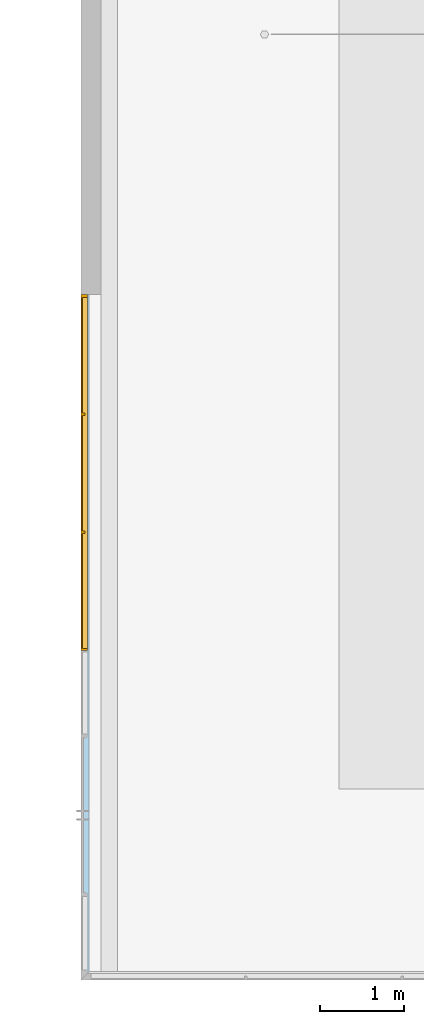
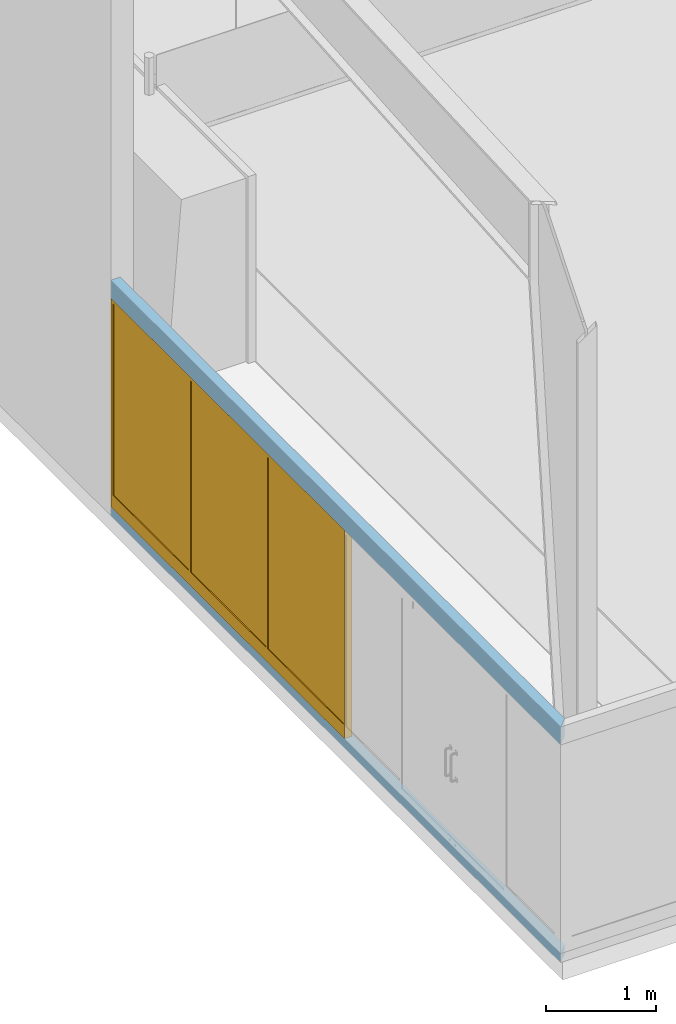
# One storey, part 31 of 45: 1 window, 2 openings, plus 1 element that does not belong to this part.
"""IFC2X3 building model written with IfcOpenShell, lengths in metres."""

from ifc_helpers import new_model, entity, si_unit, converted_unit, money_unit, direction, frame, origin_with_axes, place, context, subcontext, project, spatial, polyline, outline, extrude, faceted_brep, material, layer, layer_set, layer_usage, type_object, element, fill, save


model = new_model("IFC2X3")

# Units and contexts
model_context = context("Model", 3, precision=1e-05, world=origin_with_axes(), true_north=direction((0.0, 1.0)))
body_context = subcontext(model_context, "Body", "Model", "MODEL_VIEW")
ifc_project = project(units=[si_unit("LENGTHUNIT", "METRE"), si_unit("AREAUNIT", "SQUARE_METRE"), si_unit("VOLUMEUNIT", "CUBIC_METRE"), converted_unit("PLANEANGLEUNIT", "DEGREE", entity("IfcPlaneAngleMeasure", 0.0174532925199), si_unit("PLANEANGLEUNIT", "RADIAN"), dimensions=[0, 0, 0, 0, 0, 0, 0]), si_unit("SOLIDANGLEUNIT", "STERADIAN"), money_unit("EUR"), converted_unit("TIMEUNIT", "Year", entity("IfcTimeMeasure", 31556926.0), si_unit("TIMEUNIT", "SECOND"), dimensions=[0, 0, 0, 0, 0, 0, 0]), si_unit("MASSUNIT", "GRAM"), si_unit("THERMODYNAMICTEMPERATUREUNIT", "DEGREE_CELSIUS"), si_unit("LUMINOUSINTENSITYUNIT", "LUMEN")], contexts=[model_context])

# Site, building, storey
site_placement = place(None, origin_with_axes())
site = spatial("IfcSite", under=ifc_project, at=site_placement, Name="Site", CompositionType="ELEMENT")
building_placement = place(site_placement, origin_with_axes())
building = spatial("IfcBuilding", under=site, at=building_placement, Name="Bâtiment", CompositionType="ELEMENT")
storey_placement = place(building_placement, origin_with_axes())
storey = spatial("IfcBuildingStorey", under=building, at=storey_placement, Name="NIVEAU BAS GYMNASE", CompositionType="ELEMENT", Elevation=0.0)

# Wall, openings, window
ifc_material_1 = material(Name="Acier 2556372607")
ifc_layer = layer(ifc_material_1, 0.1, ventilated="UNKNOWN")
ifc_layer_set = layer_set([ifc_layer], Name="Acier 2556372607 0.1")
ifc_layer_usage = layer_usage(ifc_layer_set, "AXIS2", "POSITIVE", -0.1)
wall_type = type_object("IfcWallType", Name="Acier 2556372607 100", PredefinedType="NOTDEFINED")
wall_placement = place(storey_placement, frame((0.538618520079, 1.92911584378, 0.0), z_axis=(0.0, 0.0, 1.0), x_axis=(0.0, 1.0, 0.0)))
wall = element("IfcWallStandardCase", 1, at=wall_placement, inside=storey, type_object=wall_type, material=ifc_layer_usage, Name="Mur-002", context=body_context, shape_type="SweptSolid", body=[
    extrude(outline(polyline([(0.1, -0.1), (8.19666666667, -0.1), (8.19666666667, 0.0), (0.0, 0.0), (0.1, -0.1)])), origin_with_axes(), (0.0, 0.0, 1.0), 2.62),
])
opening_1_placement = place(wall_placement, frame((6.06818327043, 0.0, 0.1), z_axis=(0.0, 0.0, 1.0), x_axis=(1.0, 0.0, 0.0)))
opening_1 = element("IfcOpeningElement", 2, at=opening_1_placement, cuts=wall, Name="Fen-023", context=body_context, shape_type="SweptSolid", body=[
    extrude(outline(polyline([(-2.128483, 0.0), (-2.128483, -2.32), (2.128483, -2.32), (2.128483, 0.0), (-2.128483, 0.0)])), frame((0.0, 0.0, 0.0), z_axis=(0.0, 1.0, 0.0), x_axis=(1.0, 0.0, 0.0)), (0.0, 0.0, 1.0), 0.1),
    extrude(outline(polyline([(-2.128483, 2.32), (-2.128483, 0.0), (2.128483, 0.0), (2.128483, 2.32), (-2.128483, 2.32)])), frame((0.0, 0.0, 0.0), z_axis=(0.0, -1.0, 0.0), x_axis=(1.0, 0.0, 0.0)), (0.0, 0.0, 1.0), 0.1),
])
opening_2_placement = place(wall_placement, frame((1.9698499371, 0.0, 0.1), z_axis=(0.0, 0.0, 1.0), x_axis=(1.0, 0.0, 0.0)))
element("IfcOpeningElement", 3, at=opening_2_placement, cuts=wall, Name="Por-022", context=body_context, shape_type="SweptSolid", body=[
    extrude(outline(polyline([(-1.96985, 0.0), (-1.96985, -2.32), (1.96985, -2.32), (1.96985, 0.0), (-1.96985, 0.0)])), frame((0.0, 0.0, 0.0), z_axis=(0.0, 1.0, 0.0), x_axis=(1.0, 0.0, 0.0)), (0.0, 0.0, 1.0), 0.1),
    extrude(outline(polyline([(-1.96985, 2.32), (-1.96985, 0.0), (1.96985, 0.0), (1.96985, 2.32), (-1.96985, 2.32)])), frame((0.0, 0.0, 0.0), z_axis=(0.0, -1.0, 0.0), x_axis=(1.0, 0.0, 0.0)), (0.0, 0.0, 1.0), 0.1),
])
ifc_material_2 = material(Name="Sans Trame")
window_style = type_object("IfcWindowStyle", Name="F Devanture 3 10", ConstructionType="NOTDEFINED", OperationType="USERDEFINED", ParameterTakesPrecedence=False, Sizeable=False)
window_placement = place(opening_1_placement, frame((-2.12848339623, 0.0, 0.0), z_axis=(0.0, 0.0, 1.0), x_axis=(1.0, 0.0, 0.0)))
window = element("IfcWindow", 4, at=window_placement, inside=storey, type_object=window_style, material=ifc_material_2, Name="Fen-023", OverallHeight=2.32, OverallWidth=4.25697, context=body_context, shape_type="Brep", body=[
    faceted_brep([(4.25696700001, 0.0, 2.28), (4.25696700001, -0.08, 2.28), (4.25696700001, -0.08, 0.15), (4.25696700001, 0.0, 0.15), (4.21696700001, 0.0, 2.28), (4.21696700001, -0.08, 2.28), (4.21696700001, -0.08, 0.15), (4.21696700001, 0.0, 0.15)], [[[0, 1, 2, 3]], [[4, 5, 1, 0]], [[1, 5, 6, 2]], [[3, 2, 6, 7]], [[0, 3, 7, 4]], [[7, 6, 5, 4]]]),
    faceted_brep([(0.0, 0.0, 0.15), (0.0, -0.08, 0.15), (0.0, -0.08, 2.28), (0.0, 0.0, 2.28), (0.020000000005, 0.0, 0.15), (0.020000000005, -0.08, 0.15), (0.020000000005, -0.08, 2.28), (0.020000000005, 0.0, 2.28)], [[[0, 1, 2, 3]], [[4, 5, 1, 0]], [[1, 5, 6, 2]], [[3, 2, 6, 7]], [[0, 3, 7, 4]], [[7, 6, 5, 4]]]),
    faceted_brep([(0.0, 0.0, 2.32), (0.0, -0.08, 2.32), (4.25696700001, -0.08, 2.32), (4.25696700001, 0.0, 2.32), (0.0, 0.0, 2.28), (0.0, -0.08, 2.28), (0.020000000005, -0.08, 2.28), (4.21696700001, -0.08, 2.28), (4.25696700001, -0.08, 2.28), (4.25696700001, 0.0, 2.28), (4.21696700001, 0.0, 2.28), (0.020000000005, 0.0, 2.28)], [[[0, 1, 2, 3]], [[4, 5, 1, 0]], [[1, 5, 6, 7, 8, 2]], [[3, 2, 8, 9]], [[0, 3, 9, 10, 11, 4]], [[11, 6, 5, 4]], [[10, 7, 6, 11]], [[9, 8, 7, 10]]]),
    faceted_brep([(0.0, 0.0, 0.15), (0.0, -0.08, 0.15), (0.020000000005, -0.08, 0.15), (0.020000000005, 0.0, 0.15), (0.0, 0.0, 0.0), (0.0, -0.08, 0.0), (4.25696700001, -0.08, 0.0), (4.25696700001, -0.08, 0.15), (4.21696700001, -0.08, 0.15), (4.21696700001, 0.0, 0.15), (4.25696700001, 0.0, 0.15), (4.25696700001, 0.0, 0.0)], [[[0, 1, 2, 3]], [[4, 5, 1, 0]], [[1, 5, 6, 7, 8, 2]], [[3, 2, 8, 9]], [[0, 3, 9, 10, 11, 4]], [[11, 6, 5, 4]], [[10, 7, 6, 11]], [[9, 8, 7, 10]]]),
    faceted_brep([(1.42898900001, -0.05, 0.15), (1.39898900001, -0.05, 0.15), (1.39898900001, 0.0, 0.15), (1.42898900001, 0.0, 0.15), (1.42898900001, -0.05, 2.28), (1.39898900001, -0.05, 2.28), (1.39898900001, 0.0, 2.28), (1.42898900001, 0.0, 2.28)], [[[0, 1, 2, 3]], [[4, 5, 1, 0]], [[1, 5, 6, 2]], [[2, 6, 7, 3]], [[4, 0, 3, 7]], [[5, 4, 7, 6]]]),
    faceted_brep([(2.83797800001, -0.05, 0.15), (2.80797800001, -0.05, 0.15), (2.80797800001, 0.0, 0.15), (2.83797800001, 0.0, 0.15), (2.83797800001, -0.05, 2.28), (2.80797800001, -0.05, 2.28), (2.80797800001, 0.0, 2.28), (2.83797800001, 0.0, 2.28)], [[[0, 1, 2, 3]], [[4, 5, 1, 0]], [[1, 5, 6, 2]], [[2, 6, 7, 3]], [[4, 0, 3, 7]], [[5, 4, 7, 6]]]),
    faceted_brep([(4.21696700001, -0.01, 0.15), (4.21696700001, -0.02, 0.15), (2.83797800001, -0.02, 0.15), (2.83797800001, -0.01, 0.15), (4.21696700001, -0.01, 2.28), (4.21696700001, -0.02, 2.28), (2.83797800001, -0.02, 2.28), (2.83797800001, -0.01, 2.28)], [[[0, 1, 2, 3]], [[4, 5, 1, 0]], [[1, 5, 6, 2]], [[3, 2, 6, 7]], [[0, 3, 7, 4]], [[7, 6, 5, 4]]]),
    faceted_brep([(2.80797800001, -0.01, 0.15), (2.80797800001, -0.02, 0.15), (1.42898900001, -0.02, 0.15), (1.42898900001, -0.01, 0.15), (2.80797800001, -0.01, 2.28), (2.80797800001, -0.02, 2.28), (1.42898900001, -0.02, 2.28), (1.42898900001, -0.01, 2.28)], [[[0, 1, 2, 3]], [[4, 5, 1, 0]], [[1, 5, 6, 2]], [[3, 2, 6, 7]], [[0, 3, 7, 4]], [[7, 6, 5, 4]]]),
    faceted_brep([(1.39898900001, -0.01, 0.15), (1.39898900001, -0.02, 0.15), (0.020000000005, -0.02, 0.15), (0.020000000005, -0.01, 0.15), (1.39898900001, -0.01, 2.28), (1.39898900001, -0.02, 2.28), (0.020000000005, -0.02, 2.28), (0.020000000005, -0.01, 2.28)], [[[0, 1, 2, 3]], [[4, 5, 1, 0]], [[1, 5, 6, 2]], [[3, 2, 6, 7]], [[0, 3, 7, 4]], [[7, 6, 5, 4]]]),
])
fill(opening_1, window)

save(model, "model.ifc")
